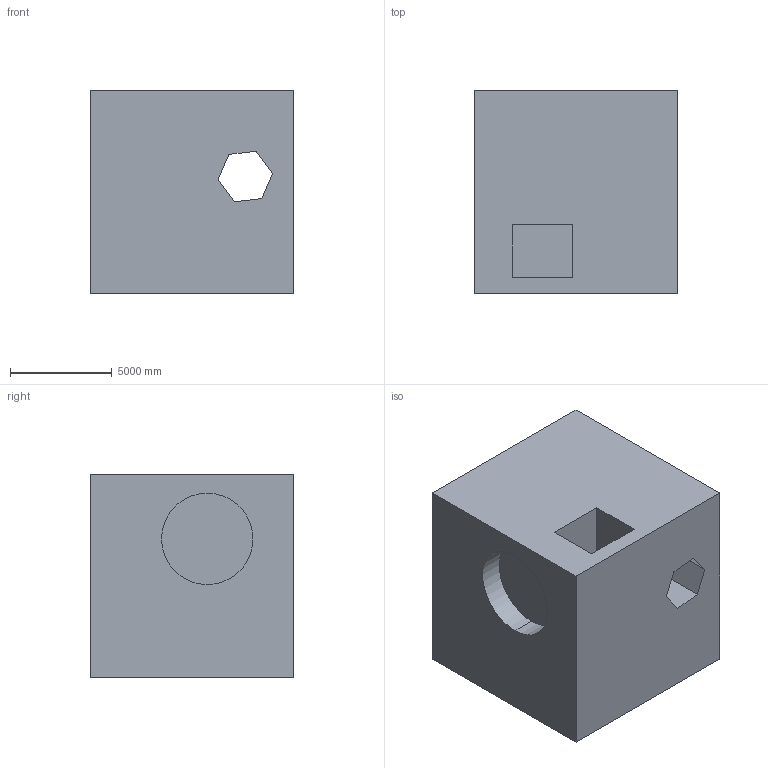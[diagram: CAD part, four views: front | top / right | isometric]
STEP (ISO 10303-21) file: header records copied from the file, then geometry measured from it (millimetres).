
FILE_DESCRIPTION (( 'STEP AP203' ), '1' );
FILE_NAME ('1246.STEP', '2022-08-18T13:22:26', ( 'user' ), ( '' ), 'SwSTEP 2.0', 'SolidWorks 2021', '' );
FILE_SCHEMA (( 'CONFIG_CONTROL_DESIGN' ));
Length unit declared in the file: centimetre
Products named in the file (1): 1246
Bounding box: 10000 x 10000 x 10000 mm (x, y, z)
Volume: 900834362104.6 mm3; surface area: 736162582.7 mm2
Topology: 1 solids, 1 shells, 20 faces, 48 edges, 32 vertices
Faces by surface type: plane 18, cylinder 2
Entity records: 657 total; most frequent: CARTESIAN_POINT 101, ORIENTED_EDGE 96, DIRECTION 94, EDGE_CURVE 48, LINE 44, VECTOR 44, VERTEX_POINT 32, AXIS2_PLACEMENT_3D 25
